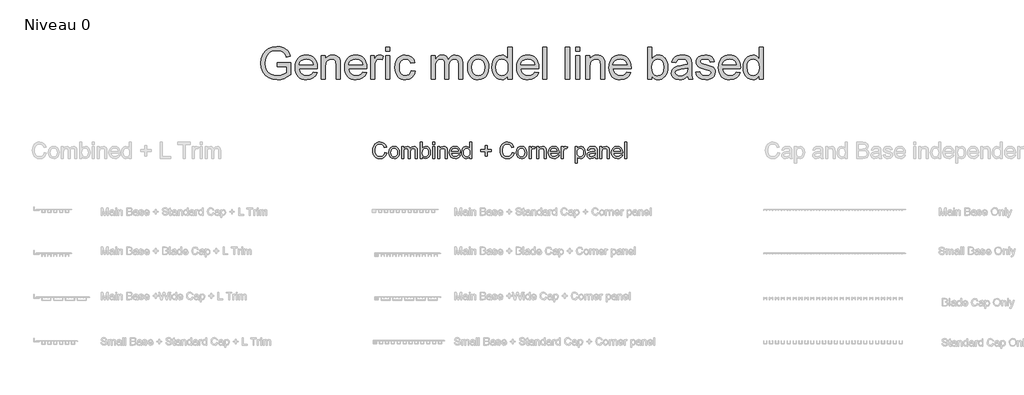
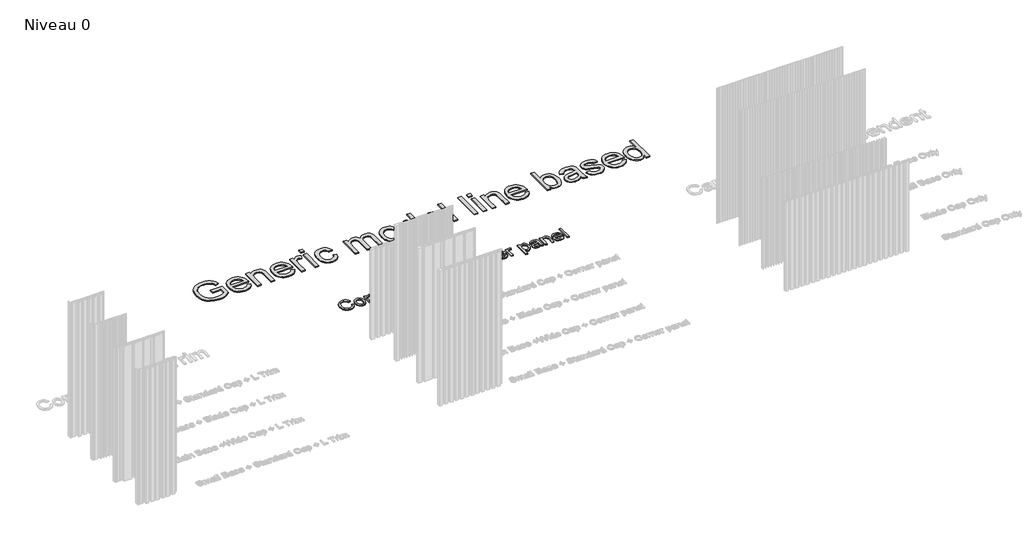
# One storey, part 20 of 25: 2 proxies.
"""IFC4 building model written with IfcOpenShell, lengths in millimetres."""

from ifc_helpers import new_model, si_unit, origin, origin_with_axes, place, context, project, spatial, polyline, outline, extrude, element, save

model = new_model("IFC4")

# Units and contexts
model_context = context("Model", 3, world=origin())
ifc_project = project(units=[si_unit("LENGTHUNIT", "METRE", prefix="MILLI")], contexts=[model_context])

# Site, building, storey
site = spatial("IfcSite", under=ifc_project)
building = spatial("IfcBuilding", under=site)
storey = spatial("IfcBuildingStorey", under=building, Name="Niveau 0", Elevation=0.0)

# Proxies
placement = place(None, origin())
element("IfcBuildingElementProxy", 1, Name="150 mm Arial", ObjectType="150 mm Arial", at=placement, inside=storey, context=model_context, shape_type="SweptSolid", body=[
    extrude(outline(polyline([(3231.9084513, 5099.4454374), (3250.7440095, 5094.5893951), (3242.0527973, 5072.6406355), (3228.4135724, 5056.6055791), (3210.4977192, 5046.7969254), (3188.9766225, 5043.5273741), (3167.1290305, 5046.0013806), (3149.7787959, 5053.4233998), (3136.4798618, 5065.5359145), (3126.7861712, 5082.0814072), (3120.8678696, 5101.5331677), (3118.8951024, 5122.3644857), (3121.125387, 5144.3362379), (3127.8162408, 5163.3097518), (3138.6181759, 5178.6826207), (3153.1817043, 5189.8524377), (3170.453764, 5196.6536561), (3189.3812927, 5198.9207289), (3210.0332682, 5195.98687), (3227.1075913, 5187.1852933), (3240.0708331, 5173.0586246), (3248.3895647, 5154.1494901), (3229.5540065, 5149.6613298), (3223.0241011, 5163.3971238), (3214.1029627, 5172.8195014), (3202.6802268, 5178.2687534), (3188.6455287, 5180.0851708), (3172.4679179, 5178.0710168), (3159.1781809, 5172.0285551), (3149.0936157, 5162.5923819), (3142.5315206, 5150.3970937), (3137.7306605, 5122.4012739), (3139.1516048, 5105.0004555), (3143.4144374, 5089.9540819), (3150.6801068, 5077.8369687), (3161.1095613, 5069.2239315), (3173.6129507, 5064.0781821), (3187.1004243, 5062.3629323), (3202.8227811, 5064.698983), (3215.9239786, 5071.707135), (3225.8154058, 5083.3138119), (3231.9084513, 5099.4454374)])), origin_with_axes(), (0.0, 0.0, 1.0), 10.0),
    extrude(outline(polyline([(3269.5795676, 5101.211271), (3273.6538607, 5127.8919127), (3285.87674, 5146.6446974), (3300.9782959, 5155.8325502), (3319.059696, 5158.8951678), (3338.8471488, 5155.1657641), (3354.652279, 5143.9775529), (3365.0127557, 5126.2134511), (3368.4662479, 5102.7563754), (3366.9395376, 5083.7276792), (3362.3594068, 5069.2423256), (3354.8592126, 5058.3944053), (3344.5723123, 5050.2780088), (3332.3540316, 5045.2150328), (3319.059696, 5043.5273741), (3299.0331199, 5047.2429823), (3283.2463837, 5058.3898068), (3272.9962717, 5076.5263891), (3269.5795676, 5101.211271)]), holes=[polyline([(3288.4151258, 5101.2480592), (3290.5948266, 5084.2013272), (3297.1339291, 5072.0566229), (3306.9747724, 5064.7863549), (3319.059696, 5062.3629323), (3331.0894372, 5064.8001505), (3340.9118865, 5072.1118052), (3347.4509889, 5084.4174579), (3349.6306898, 5101.8366704), (3347.4371934, 5118.3867616), (3340.8567042, 5130.3659191), (3331.0204593, 5137.636187), (3319.059696, 5140.0596097), (3306.9747724, 5137.6453841), (3297.1339291, 5130.4027073), (3290.5948266, 5118.2855941), (3288.4151258, 5101.2480592)])]), origin_with_axes(), (0.0, 0.0, 1.0), 10.0),
    extrude(outline(polyline([(3389.6562508, 5045.8818189), (3389.6562508, 5156.5407231), (3408.491809, 5156.5407231), (3408.491809, 5138.3305643), (3421.4412552, 5153.2481792), (3439.8721432, 5158.8951678), (3450.347583, 5157.4558295), (3458.7444895, 5153.1378146), (3469.1187618, 5137.0061891), (3483.8156475, 5153.4229232), (3502.3752942, 5158.8951678), (3516.5341525, 5156.618898), (3527.0049937, 5149.7900885), (3533.4751183, 5138.2247982), (3535.6318265, 5121.7390863), (3535.6318265, 5045.8818189), (3516.7962684, 5045.8818189), (3516.7962684, 5113.6456824), (3515.0488289, 5129.3726377), (3508.7212586, 5137.1165537), (3497.9607102, 5140.0596097), (3487.7565834, 5138.1742145), (3479.4378518, 5132.5180288), (3473.9058263, 5122.7047766), (3472.0618178, 5108.3481817), (3472.0618178, 5045.8818189), (3453.2262596, 5045.8818189), (3453.2262596, 5115.7426098), (3448.866858, 5133.9895568), (3443.1141033, 5138.5420965), (3434.5746425, 5140.0596097), (3420.6319148, 5136.0129077), (3411.3612886, 5124.1671075), (3408.491809, 5101.6895176), (3408.491809, 5045.8818189), (3389.6562508, 5045.8818189)])), origin_with_axes(), (0.0, 0.0, 1.0), 10.0),
    extrude(outline(polyline([(3582.7207219, 5045.8818189), (3563.8851638, 5045.8818189), (3563.8851638, 5196.5662841), (3582.7207219, 5196.5662841), (3582.7207219, 5140.6850091), (3595.9092914, 5154.3426281), (3612.2984343, 5158.8951678), (3631.1707807, 5154.7932836), (3645.8124841, 5143.260183), (3654.8071989, 5125.3259358), (3658.0629545, 5102.86674), (3654.6922357, 5077.7220056), (3644.5800794, 5059.0152061), (3629.7406394, 5047.3993321), (3612.1880697, 5043.5273741), (3595.4402419, 5048.5213722), (3582.7207219, 5063.5033665), (3582.7207219, 5045.8818189)]), holes=[polyline([(3582.7207219, 5101.9838232), (3584.0083089, 5086.275262), (3587.8710698, 5075.6434723), (3597.7395044, 5065.6830673), (3610.569389, 5062.3629323), (3621.4403019, 5064.8093476), (3630.7293223, 5072.1485934), (3637.1028779, 5084.3346845), (3639.2273964, 5101.3216356), (3637.1902498, 5118.5569071), (3631.0788102, 5130.6050424), (3622.0794969, 5137.6959679), (3611.3787293, 5140.0596097), (3600.5078164, 5137.6131944), (3591.218796, 5130.2739486), (3584.8452404, 5118.3085867), (3582.7207219, 5101.9838232)])]), origin_with_axes(), (0.0, 0.0, 1.0), 10.0),
    extrude(outline(polyline([(3679.2529574, 5045.8818189), (3679.2529574, 5156.5407231), (3698.0885156, 5156.5407231), (3698.0885156, 5045.8818189), (3679.2529574, 5045.8818189)])), origin_with_axes(), (0.0, 0.0, 1.0), 10.0),
    extrude(outline(polyline([(3679.2529574, 5177.730726), (3679.2529574, 5196.5662841), (3698.0885156, 5196.5662841), (3698.0885156, 5177.730726), (3679.2529574, 5177.730726)])), origin_with_axes(), (0.0, 0.0, 1.0), 10.0),
    extrude(outline(polyline([(3726.3418528, 5045.8818189), (3726.3418528, 5156.5407231), (3745.177411, 5156.5407231), (3745.177411, 5141.0896793), (3759.5799911, 5154.4437957), (3779.2432837, 5158.8951678), (3797.0303782, 5155.3083184), (3809.170484, 5145.8905393), (3814.8174727, 5132.0397822), (3815.8107541, 5113.8296234), (3815.8107541, 5045.8818189), (3796.9751959, 5045.8818189), (3796.9751959, 5111.2912377), (3794.8046921, 5127.956292), (3787.1343525, 5136.7670658), (3774.2033004, 5140.0596097), (3763.1714391, 5138.2110027), (3753.7674556, 5132.6651816), (3747.3249221, 5121.9506185), (3745.177411, 5104.5957853), (3745.177411, 5045.8818189), (3726.3418528, 5045.8818189)])), origin_with_axes(), (0.0, 0.0, 1.0), 10.0),
    extrude(outline(polyline([(3919.1855947, 5078.8440457), (3937.6532709, 5076.4896009), (3930.9992053, 5062.5744644), (3920.3812112, 5052.172601), (3906.0384119, 5045.6886809), (3888.2099307, 5043.5273741), (3866.1094198, 5047.2567779), (3849.1040746, 5058.4449891), (3838.2607528, 5076.3654407), (3834.6463122, 5100.291566), (3838.297541, 5125.0224331), (3849.2512274, 5143.5177004), (3866.0266464, 5155.050801), (3887.1430729, 5158.8951678), (3907.6019104, 5155.059998), (3923.9496665, 5143.5544886), (3934.6688282, 5125.0960095), (3938.2418821, 5100.4019306), (3938.1315175, 5095.3251591), (3853.4818704, 5095.3251591), (3856.7422245, 5081.2260816), (3864.3159951, 5070.8610064), (3875.2466889, 5064.4874508), (3888.5778127, 5062.3629323), (3907.0454889, 5066.2992696), (3919.1855947, 5078.8440457)]), holes=[polyline([(3853.4818704, 5114.1607172), (3919.4063239, 5114.1607172), (3916.8587411, 5124.1119252), (3911.864743, 5131.2304418), (3900.8834654, 5137.8523177), (3887.0694965, 5140.0596097), (3874.3729692, 5138.2983746), (3863.8745367, 5133.0146695), (3856.5766776, 5124.7787113), (3853.4818704, 5114.1607172)])]), origin_with_axes(), (0.0, 0.0, 1.0), 10.0),
    extrude(outline(polyline([(4025.3563385, 5045.8818189), (4025.3563385, 5063.6505193), (4012.8943359, 5048.5581604), (3995.6682615, 5043.5273741), (3983.4913675, 5045.34839), (3972.344543, 5050.8114377), (3962.9083698, 5059.5348395), (3955.8634296, 5071.1369179), (3951.4764368, 5085.1486234), (3950.0141059, 5101.1009064), (3955.4035771, 5131.083289), (3962.1358176, 5142.9750745), (3971.5535967, 5151.7214689), (3982.944143, 5157.1017431), (3995.5946851, 5158.8951678), (4012.9587153, 5153.763214), (4025.3563385, 5140.4274917), (4025.3563385, 5196.5662841), (4044.1918967, 5196.5662841), (4044.1918967, 5045.8818189), (4025.3563385, 5045.8818189)]), holes=[polyline([(3968.8496641, 5101.1744828), (3970.9741826, 5084.1369479), (3977.3477381, 5072.0198347), (3986.6091674, 5064.7771579), (3997.3973069, 5062.3629323), (4008.1808479, 5064.6667933), (4017.2077523, 5071.5783763), (4023.319192, 5083.22644), (4025.3563385, 5099.739743), (4023.2824038, 5117.7935519), (4017.0605995, 5130.3107368), (4007.8037688, 5137.6223915), (3996.6247547, 5140.0596097), (3985.7262506, 5137.7189605), (3976.7959151, 5130.6970129), (3970.8362268, 5118.635082), (3968.8496641, 5101.1744828)])]), origin_with_axes(), (0.0, 0.0, 1.0), 10.0),
    extrude(outline(polyline([(4168.9774694, 5069.4262666), (4168.9774694, 5109.4518277), (4128.9519084, 5109.4518277), (4128.9519084, 5128.2873858), (4168.9774694, 5128.2873858), (4168.9774694, 5168.3129469), (4187.8130276, 5168.3129469), (4187.8130276, 5128.2873858), (4227.8385887, 5128.2873858), (4227.8385887, 5109.4518277), (4187.8130276, 5109.4518277), (4187.8130276, 5069.4262666), (4168.9774694, 5069.4262666)])), origin_with_axes(), (0.0, 0.0, 1.0), 10.0),
    extrude(outline(polyline([(4420.9030597, 5099.4454374), (4439.7386179, 5094.5893951), (4431.0474057, 5072.6406355), (4417.4081808, 5056.6055791), (4399.4923276, 5046.7969254), (4377.9712309, 5043.5273741), (4356.1236389, 5046.0013806), (4338.7734043, 5053.4233998), (4325.4744702, 5065.5359145), (4315.7807796, 5082.0814072), (4309.862478, 5101.5331677), (4307.8897108, 5122.3644857), (4310.1199954, 5144.3362379), (4316.8108492, 5163.3097518), (4327.6127843, 5178.6826207), (4342.1763128, 5189.8524377), (4359.4483724, 5196.6536561), (4378.3759011, 5198.9207289), (4399.0278766, 5195.98687), (4416.1021997, 5187.1852933), (4429.0654415, 5173.0586246), (4437.3841731, 5154.1494901), (4418.548615, 5149.6613298), (4412.0187095, 5163.3971238), (4403.0975712, 5172.8195014), (4391.6748352, 5178.2687534), (4377.6401371, 5180.0851708), (4361.4625264, 5178.0710168), (4348.1727893, 5172.0285551), (4338.0882241, 5162.5923819), (4331.526129, 5150.3970937), (4326.725269, 5122.4012739), (4328.1462132, 5105.0004555), (4332.4090458, 5089.9540819), (4339.6747152, 5077.8369687), (4350.1041698, 5069.2239315), (4362.6075591, 5064.0781821), (4376.0950327, 5062.3629323), (4391.8173895, 5064.698983), (4404.918587, 5071.707135), (4414.8100142, 5083.3138119), (4420.9030597, 5099.4454374)])), origin_with_axes(), (0.0, 0.0, 1.0), 10.0),
    extrude(outline(polyline([(4458.574176, 5101.211271), (4462.6484691, 5127.8919127), (4474.8713484, 5146.6446974), (4489.9729043, 5155.8325502), (4508.0543044, 5158.8951678), (4527.8417572, 5155.1657641), (4543.6468874, 5143.9775529), (4554.0073641, 5126.2134511), (4557.4608563, 5102.7563754), (4555.9341461, 5083.7276792), (4551.3540152, 5069.2423256), (4543.853821, 5058.3944053), (4533.5669207, 5050.2780088), (4521.34864, 5045.2150328), (4508.0543044, 5043.5273741), (4488.0277283, 5047.2429823), (4472.2409922, 5058.3898068), (4461.9908801, 5076.5263891), (4458.574176, 5101.211271)]), holes=[polyline([(4477.4097342, 5101.2480592), (4479.589435, 5084.2013272), (4486.1285375, 5072.0566229), (4495.9693808, 5064.7863549), (4508.0543044, 5062.3629323), (4520.0840456, 5064.8001505), (4529.9064949, 5072.1118052), (4536.4455974, 5084.4174579), (4538.6252982, 5101.8366704), (4536.4318018, 5118.3867616), (4529.8513126, 5130.3659191), (4520.0150678, 5137.636187), (4508.0543044, 5140.0596097), (4495.9693808, 5137.6453841), (4486.1285375, 5130.4027073), (4479.589435, 5118.2855941), (4477.4097342, 5101.2480592)])]), origin_with_axes(), (0.0, 0.0, 1.0), 10.0),
    extrude(outline(polyline([(4578.6508593, 5045.8818189), (4578.6508593, 5156.5407231), (4595.1319726, 5156.5407231), (4595.1319726, 5140.1699743), (4606.8306201, 5155.2531361), (4618.6028439, 5158.8951678), (4637.5119785, 5153.0826323), (4631.2211964, 5136.1968487), (4617.9774445, 5140.0596097), (4607.3272608, 5136.3440015), (4600.539838, 5126.0433057), (4597.4864174, 5104.0439624), (4597.4864174, 5045.8818189), (4578.6508593, 5045.8818189)])), origin_with_axes(), (0.0, 0.0, 1.0), 10.0),
    extrude(outline(polyline([(4649.2842023, 5045.8818189), (4649.2842023, 5156.5407231), (4668.1197605, 5156.5407231), (4668.1197605, 5141.0896793), (4682.5223406, 5154.4437957), (4702.1856332, 5158.8951678), (4719.9727277, 5155.3083184), (4732.1128335, 5145.8905393), (4737.7598222, 5132.0397822), (4738.7531036, 5113.8296234), (4738.7531036, 5045.8818189), (4719.9175454, 5045.8818189), (4719.9175454, 5111.2912377), (4717.7470416, 5127.956292), (4710.076702, 5136.7670658), (4697.1456499, 5140.0596097), (4686.1137886, 5138.2110027), (4676.7098051, 5132.6651816), (4670.2672716, 5121.9506185), (4668.1197605, 5104.5957853), (4668.1197605, 5045.8818189), (4649.2842023, 5045.8818189)])), origin_with_axes(), (0.0, 0.0, 1.0), 10.0),
    extrude(outline(polyline([(4842.1279442, 5078.8440457), (4860.5956204, 5076.4896009), (4853.9415548, 5062.5744644), (4843.3235607, 5052.172601), (4828.9807614, 5045.6886809), (4811.1522802, 5043.5273741), (4789.0517693, 5047.2567779), (4772.0464241, 5058.4449891), (4761.2031023, 5076.3654407), (4757.5886617, 5100.291566), (4761.2398905, 5125.0224331), (4772.1935769, 5143.5177004), (4788.9689959, 5155.050801), (4810.0854224, 5158.8951678), (4830.5442599, 5155.059998), (4846.892016, 5143.5544886), (4857.6111777, 5125.0960095), (4861.1842316, 5100.4019306), (4861.073867, 5095.3251591), (4776.4242199, 5095.3251591), (4779.684574, 5081.2260816), (4787.2583446, 5070.8610064), (4798.1890384, 5064.4874508), (4811.5201622, 5062.3629323), (4829.9878384, 5066.2992696), (4842.1279442, 5078.8440457)]), holes=[polyline([(4776.4242199, 5114.1607172), (4842.3486734, 5114.1607172), (4839.8010906, 5124.1119252), (4834.8070925, 5131.2304418), (4823.8258149, 5137.8523177), (4810.011846, 5140.0596097), (4797.3153187, 5138.2983746), (4786.8168862, 5133.0146695), (4779.5190271, 5124.7787113), (4776.4242199, 5114.1607172)])]), origin_with_axes(), (0.0, 0.0, 1.0), 10.0),
    extrude(outline(polyline([(4880.0197897, 5045.8818189), (4880.0197897, 5156.5407231), (4896.5009031, 5156.5407231), (4896.5009031, 5140.1699743), (4908.1995505, 5155.2531361), (4919.9717744, 5158.8951678), (4938.8809089, 5153.0826323), (4932.5901268, 5136.1968487), (4919.346375, 5140.0596097), (4908.6961912, 5136.3440015), (4901.9087684, 5126.0433057), (4898.8553479, 5104.0439624), (4898.8553479, 5045.8818189), (4880.0197897, 5045.8818189)])), origin_with_axes(), (0.0, 0.0, 1.0), 10.0),
    extrude(outline(polyline([(5009.514252, 5003.5018131), (5009.514252, 5156.5407231), (5028.3498102, 5156.5407231), (5028.3498102, 5138.0730469), (5041.3728328, 5153.6896376), (5058.9575922, 5158.8951678), (5071.6955062, 5157.074152), (5082.8331336, 5151.6111043), (5091.9014248, 5142.8371187), (5098.4313302, 5131.083289), (5103.6920428, 5102.0573996), (5102.2067192, 5085.9487667), (5097.7507486, 5071.5415881), (5090.466685, 5059.5670291), (5080.497083, 5050.7562554), (5068.8858075, 5045.3345944), (5056.6767238, 5043.5273741), (5040.2875809, 5048.3650224), (5028.3498102, 5060.5970987), (5028.3498102, 5003.5018131), (5009.514252, 5003.5018131)]), holes=[polyline([(5028.3498102, 5100.3283542), (5030.3869567, 5083.4425706), (5036.4983964, 5071.6335586), (5045.5161038, 5064.6805889), (5056.2720536, 5062.3629323), (5067.2027474, 5064.7633623), (5076.450381, 5071.9646524), (5082.7549587, 5084.2059258), (5084.8564846, 5101.7263058), (5082.8055425, 5118.5201189), (5076.6527161, 5130.4946778), (5067.6488043, 5137.6683767), (5057.0446058, 5140.0596097), (5046.3990206, 5137.5166254), (5037.0502193, 5129.8876725), (5030.5249125, 5117.4118744), (5028.3498102, 5100.3283542)])]), origin_with_axes(), (0.0, 0.0, 1.0), 10.0),
    extrude(outline(polyline([(5195.5153888, 5060.0084875), (5177.2500477, 5047.2429823), (5157.0717203, 5043.5273741), (5141.3309694, 5045.7622573), (5129.7196939, 5052.4669066), (5122.5597906, 5062.6480408), (5120.1731562, 5075.3123785), (5123.7783997, 5090.2115993), (5133.2513611, 5101.02733), (5146.4399306, 5107.2077475), (5162.737103, 5110.0404389), (5195.4050242, 5116.515162), (5195.5153888, 5120.7090167), (5194.2186047, 5129.1151203), (5190.3282526, 5134.6149562), (5181.6278435, 5138.6984463), (5169.5061317, 5140.0596097), (5150.4498444, 5136.435972), (5141.3631591, 5123.5784963), (5122.5276009, 5125.9329411), (5130.6761871, 5144.3270408), (5147.0837241, 5155.1059833), (5171.9341529, 5158.8951678), (5194.7612307, 5155.5474417), (5207.6554946, 5147.1413381), (5213.4312419, 5134.3574388), (5214.3509469, 5117.8763254), (5214.3509469, 5094.4422423), (5215.3074401, 5061.7191388), (5219.0598365, 5045.8818189), (5200.2242783, 5045.8818189), (5195.5153888, 5060.0084875)]), holes=[polyline([(5195.5153888, 5097.6796038), (5165.128336, 5091.9038565), (5148.9231341, 5088.850436), (5141.5838883, 5083.884029), (5139.0087143, 5076.6367537), (5144.6189147, 5066.4464224), (5161.081634, 5062.3629323), (5180.1379214, 5066.8694867), (5192.42518, 5077.7771879), (5195.4050242, 5092.3453149), (5195.5153888, 5097.6796038)])]), origin_with_axes(), (0.0, 0.0, 1.0), 10.0),
    extrude(outline(polyline([(5240.2498394, 5045.8818189), (5240.2498394, 5156.5407231), (5259.0853975, 5156.5407231), (5259.0853975, 5141.0896793), (5273.4879776, 5154.4437957), (5293.1512703, 5158.8951678), (5310.9383648, 5155.3083184), (5323.0784706, 5145.8905393), (5328.7254592, 5132.0397822), (5329.7187406, 5113.8296234), (5329.7187406, 5045.8818189), (5310.8831825, 5045.8818189), (5310.8831825, 5111.2912377), (5308.7126787, 5127.956292), (5301.0423391, 5136.7670658), (5288.111287, 5140.0596097), (5277.0794256, 5138.2110027), (5267.6754421, 5132.6651816), (5261.2329087, 5121.9506185), (5259.0853975, 5104.5957853), (5259.0853975, 5045.8818189), (5240.2498394, 5045.8818189)])), origin_with_axes(), (0.0, 0.0, 1.0), 10.0),
    extrude(outline(polyline([(5433.0935813, 5078.8440457), (5451.5612574, 5076.4896009), (5444.9071918, 5062.5744644), (5434.2891977, 5052.172601), (5419.9463985, 5045.6886809), (5402.1179173, 5043.5273741), (5380.0174064, 5047.2567779), (5363.0120612, 5058.4449891), (5352.1687394, 5076.3654407), (5348.5542988, 5100.291566), (5352.2055276, 5125.0224331), (5363.159214, 5143.5177004), (5379.934633, 5155.050801), (5401.0510595, 5158.8951678), (5421.5098969, 5155.059998), (5437.8576531, 5143.5544886), (5448.5768147, 5125.0960095), (5452.1498686, 5100.4019306), (5452.039504, 5095.3251591), (5367.3898569, 5095.3251591), (5370.6502111, 5081.2260816), (5378.2239817, 5070.8610064), (5389.1546755, 5064.4874508), (5402.4857993, 5062.3629323), (5420.9534754, 5066.2992696), (5433.0935813, 5078.8440457)]), holes=[polyline([(5367.3898569, 5114.1607172), (5433.3143105, 5114.1607172), (5430.7667276, 5124.1119252), (5425.7727296, 5131.2304418), (5414.791452, 5137.8523177), (5400.9774831, 5140.0596097), (5388.2809557, 5138.2983746), (5377.7825233, 5133.0146695), (5370.4846642, 5124.7787113), (5367.3898569, 5114.1607172)])]), origin_with_axes(), (0.0, 0.0, 1.0), 10.0),
    extrude(outline(polyline([(5470.9854268, 5045.8818189), (5470.9854268, 5196.5662841), (5489.8209849, 5196.5662841), (5489.8209849, 5045.8818189), (5470.9854268, 5045.8818189)])), origin_with_axes(), (0.0, 0.0, 1.0), 10.0),
])
element("IfcBuildingElementProxy", 2, Name="300mm Arial", ObjectType="300mm Arial", at=placement, inside=storey, context=model_context, shape_type="SweptSolid", body=[
    extrude(outline(polyline([(2230.1605365, 5903.9454497), (2230.1605365, 5941.616566), (2352.5916645, 5941.616566), (2352.5916645, 5828.9710991), (2322.8392081, 5808.2777369), (2292.1486527, 5793.4336983), (2260.5935745, 5784.4941659), (2228.2475501, 5781.5143217), (2185.9871059, 5786.2508024), (2147.7917578, 5800.4602445), (2116.0619357, 5823.6460072), (2093.1980697, 5855.3114499), (2079.3749037, 5893.2952659), (2074.7671817, 5935.4361485), (2079.3565096, 5977.8805337), (2093.1244933, 6017.3634688), (2115.5009156, 6050.4820454), (2145.9155596, 6073.8333551), (2182.9612765, 6087.6841122), (2225.2309178, 6092.3010312), (2256.261764, 6089.6246897), (2284.1656134, 6081.5956652), (2307.6640758, 6068.7933717), (2325.4787614, 6051.7972236), (2338.6581339, 6029.7886832), (2348.2506569, 6001.9492132), (2313.5225966, 5992.1635521), (2305.7694835, 6012.0199828), (2296.3425074, 6027.0019771), (2283.8713078, 6038.2959543), (2266.9855242, 6047.088334), (2246.853182, 6052.7445197), (2224.6423066, 6054.6299149), (2198.6422466, 6052.5973669), (2176.412977, 6046.4997228), (2158.0372713, 6037.1003379), (2143.597903, 6025.1625671), (2124.2105219, 5996.1366777), (2115.381354, 5967.6993995), (2112.438298, 5936.9812529), (2115.9791622, 5900.9564085), (2126.6017548, 5871.3143167), (2143.9841791, 5848.2665097), (2167.8045383, 5832.0245196), (2195.6807965, 5822.3952084), (2225.2309178, 5819.185438), (2251.3229483, 5821.6042621), (2276.7711853, 5828.8607345), (2298.8716961, 5838.8579277), (2314.9205482, 5849.4989144), (2314.9205482, 5903.9454497), (2230.1605365, 5903.9454497)])), origin_with_axes(), (0.0, 0.0, 1.0), 10.0),
    extrude(outline(polyline([(2564.0502353, 5852.1476648), (2600.9855876, 5847.4387752), (2587.6774564, 5819.6085023), (2566.4414683, 5798.8047755), (2537.7558697, 5785.8369351), (2502.0989073, 5781.5143217), (2478.7246051, 5783.3790236), (2457.8978856, 5788.9731292), (2439.618749, 5798.2966385), (2423.8871951, 5811.3495515), (2411.236653, 5827.7685848), (2402.2005515, 5847.1904549), (2396.7788906, 5869.6151618), (2394.9716703, 5895.0427054), (2396.7972847, 5921.3324725), (2402.2741279, 5944.5044397), (2411.4021999, 5964.5586069), (2424.1815007, 5981.4949743), (2439.8716678, 5994.9502583), (2457.7323387, 6004.5611754), (2477.7635133, 6010.3277257), (2499.9651917, 6012.2499091), (2521.4517995, 6010.3323242), (2540.8828667, 6004.5795695), (2558.2583931, 5994.991645), (2573.578379, 5981.5685507), (2586.0840676, 5964.6689715), (2595.0167023, 5944.6515925), (2600.3762831, 5921.5164135), (2602.16281, 5895.2634346), (2601.9420808, 5885.1098915), (2432.6427866, 5885.1098915), (2439.163495, 5856.9117366), (2454.3110361, 5836.1815862), (2476.1724237, 5823.4344751), (2502.8346713, 5819.185438), (2522.88424, 5821.1536067), (2539.7700236, 5827.0581127), (2553.492022, 5837.2668381), (2564.0502353, 5852.1476648)]), holes=[polyline([(2432.6427866, 5922.7810078), (2564.4916937, 5922.7810078), (2559.3965281, 5942.6834238), (2549.4085319, 5956.920457), (2527.4459768, 5970.1642088), (2499.818039, 5974.5787928), (2474.4249842, 5971.0563227), (2453.4281194, 5960.4889124), (2438.8324012, 5944.016996), (2432.6427866, 5922.7810078)])]), origin_with_axes(), (0.0, 0.0, 1.0), 10.0),
    extrude(outline(polyline([(2639.8339263, 5786.2232112), (2639.8339263, 6007.5410195), (2677.5050426, 6007.5410195), (2677.5050426, 5976.6389319), (2690.5924446, 5992.2187344), (2706.3102028, 6003.3471648), (2724.6583174, 6010.024223), (2745.6367881, 6012.2499091), (2764.2056318, 6010.4564843), (2781.2109771, 6005.0762102), (2795.392828, 5996.7804712), (2805.4911887, 5986.240652), (2816.785166, 5958.5391378), (2818.7717288, 5922.1188203), (2818.7717288, 5786.2232112), (2781.1006125, 5786.2232112), (2781.1006125, 5917.0420487), (2776.7596049, 5950.3721575), (2770.7539313, 5960.2957743), (2761.4189257, 5967.9937051), (2749.4535638, 5972.9325208), (2735.5568215, 5974.5787928), (2713.4930988, 5970.8815787), (2694.6851318, 5959.7899366), (2687.1688428, 5950.735441), (2681.8000649, 5938.3608103), (2677.5050426, 5903.6511441), (2677.5050426, 5786.2232112), (2639.8339263, 5786.2232112)])), origin_with_axes(), (0.0, 0.0, 1.0), 10.0),
    extrude(outline(polyline([(3025.5214101, 5852.1476648), (3062.4567624, 5847.4387752), (3049.1486312, 5819.6085023), (3027.912643, 5798.8047755), (2999.2270445, 5785.8369351), (2963.5700821, 5781.5143217), (2940.1957798, 5783.3790236), (2919.3690604, 5788.9731292), (2901.0899237, 5798.2966385), (2885.3583699, 5811.3495515), (2872.7078278, 5827.7685848), (2863.6717263, 5847.1904549), (2858.2500654, 5869.6151618), (2856.4428451, 5895.0427054), (2858.2684595, 5921.3324725), (2863.7453027, 5944.5044397), (2872.8733747, 5964.5586069), (2885.6526755, 5981.4949743), (2901.3428426, 5994.9502583), (2919.2035135, 6004.5611754), (2939.2346881, 6010.3277257), (2961.4363665, 6012.2499091), (2982.9229743, 6010.3323242), (3002.3540414, 6004.5795695), (3019.7295679, 5994.991645), (3035.0495537, 5981.5685507), (3047.5552423, 5964.6689715), (3056.487877, 5944.6515925), (3061.8474578, 5921.5164135), (3063.6339848, 5895.2634346), (3063.4132556, 5885.1098915), (2894.1139614, 5885.1098915), (2900.6346697, 5856.9117366), (2915.7822109, 5836.1815862), (2937.6435985, 5823.4344751), (2964.3058461, 5819.185438), (2984.3554148, 5821.1536067), (3001.2411984, 5827.0581127), (3014.9631968, 5837.2668381), (3025.5214101, 5852.1476648)]), holes=[polyline([(2894.1139614, 5922.7810078), (3025.9628685, 5922.7810078), (3020.8677028, 5942.6834238), (3010.8797067, 5956.920457), (2988.9171515, 5970.1642088), (2961.2892137, 5974.5787928), (2935.896159, 5971.0563227), (2914.8992941, 5960.4889124), (2900.303576, 5944.016996), (2894.1139614, 5922.7810078)])]), origin_with_axes(), (0.0, 0.0, 1.0), 10.0),
    extrude(outline(polyline([(3101.3051011, 5786.2232112), (3101.3051011, 6007.5410195), (3134.2673278, 6007.5410195), (3134.2673278, 5974.799522), (3146.4442219, 5993.7822329), (3157.6646227, 6004.9658456), (3168.9218118, 6010.4288932), (3181.2090704, 6012.2499091), (3199.9710522, 6009.3436413), (3219.0273395, 6000.624838), (3206.4457753, 5966.8532709), (3193.2020235, 5972.6474123), (3179.9582716, 5974.5787928), (3168.7102796, 5972.7209887), (3158.6579041, 5967.1475765), (3150.5369091, 5958.2816204), (3145.0830585, 5946.5461847), (3140.5029277, 5925.5033346), (3138.9762174, 5902.5474981), (3138.9762174, 5786.2232112), (3101.3051011, 5786.2232112)])), origin_with_axes(), (0.0, 0.0, 1.0), 10.0),
    extrude(outline(polyline([(3242.5717872, 6049.9210254), (3242.5717872, 6087.5921417), (3280.2429035, 6087.5921417), (3280.2429035, 6049.9210254), (3242.5717872, 6049.9210254)])), origin_with_axes(), (0.0, 0.0, 1.0), 10.0),
    extrude(outline(polyline([(3242.5717872, 5786.2232112), (3242.5717872, 6007.5410195), (3280.2429035, 6007.5410195), (3280.2429035, 5786.2232112), (3242.5717872, 5786.2232112)])), origin_with_axes(), (0.0, 0.0, 1.0), 10.0),
    extrude(outline(polyline([(3478.0162641, 5866.2743334), (3515.6873804, 5861.5654439), (3505.1843495, 5828.0605911), (3485.4474804, 5802.7411128), (3458.3345774, 5786.8210195), (3425.7034444, 5781.5143217), (3404.5755216, 5783.365228), (3385.6318981, 5788.9179469), (3368.8725739, 5798.1724783), (3354.2975491, 5811.1288223), (3342.5000334, 5827.5432571), (3334.0732365, 5847.1720608), (3329.0171583, 5870.0152334), (3327.3317989, 5896.072775), (3330.2104755, 5929.5960218), (3338.8465054, 5958.6495024), (3353.3778442, 5982.1111766), (3373.9424477, 5998.8590045), (3398.5445561, 6008.9021829), (3425.1884096, 6012.2499091), (3457.0193993, 6007.6513841), (3482.4676363, 5993.8558093), (3500.7237803, 5971.5989486), (3510.9784909, 5941.616566), (3473.3073746, 5936.9076765), (3466.4739665, 5953.3428046), (3455.8329798, 5965.1242255), (3441.9730256, 5972.215151), (3425.4827152, 5974.5787928), (3401.1381242, 5969.9250855), (3381.8151224, 5955.9639638), (3369.205967, 5931.9412695), (3365.0029152, 5897.1028446), (3369.1139965, 5861.7953701), (3381.4472404, 5837.6899024), (3400.4207543, 5823.8115541), (3424.4526456, 5819.185438), (3443.9595884, 5822.0733117), (3459.9532582, 5830.7369327), (3471.5875263, 5845.3970302), (3478.0162641, 5866.2743334)])), origin_with_axes(), (0.0, 0.0, 1.0), 10.0),
    extrude(outline(polyline([(3666.3718457, 5786.2232112), (3666.3718457, 6007.5410195), (3704.042962, 6007.5410195), (3704.042962, 5971.120702), (3715.3737274, 5987.8501357), (3729.9418544, 6000.9559318), (3747.2507023, 6009.4264148), (3766.8036303, 6012.2499091), (3787.75451, 6009.3712325), (3804.548323, 6000.7352026), (3817.0930991, 5986.9120367), (3825.2968676, 5968.4719517), (3839.028063, 5987.624808), (3854.690639, 6001.3054197), (3872.2845954, 6009.5137867), (3891.8099323, 6012.2499091), (3920.1276489, 6007.6973694), (3941.0693315, 5994.0397503), (3954.0095806, 5970.9091699), (3958.322997, 5937.9377461), (3958.322997, 5786.2232112), (3920.6518807, 5786.2232112), (3920.6518807, 5921.7509383), (3917.1570018, 5953.2048489), (3912.2457771, 5961.8776669), (3904.5018611, 5968.6926808), (3894.5414561, 5973.1072648), (3882.9807644, 5974.5787928), (3862.5725107, 5970.8080023), (3845.9350475, 5959.495631), (3834.8709965, 5939.8691265), (3831.1829795, 5911.1559368), (3831.1829795, 5786.2232112), (3793.5118632, 5786.2232112), (3793.5118632, 5925.944793), (3791.3321624, 5947.2451605), (3784.7930599, 5962.4386869), (3773.2875505, 5971.5437663), (3756.2086289, 5974.5787928), (3741.6956842, 5972.5554418), (3728.3231736, 5966.4853889), (3717.2867138, 5956.5157868), (3709.7819211, 5942.7937884), (3705.4777017, 5923.7558951), (3704.042962, 5897.8386086), (3704.042962, 5786.2232112), (3666.3718457, 5786.2232112)])), origin_with_axes(), (0.0, 0.0, 1.0), 10.0),
    extrude(outline(polyline([(4005.4118924, 5896.8821154), (4007.449039, 5925.5447213), (4013.5604786, 5950.2433988), (4023.7462113, 5970.9781477), (4038.0062372, 5987.7489682), (4052.362832, 5998.4681298), (4068.209349, 6006.1246739), (4085.545788, 6010.7186003), (4104.3721491, 6012.2499091), (4125.1551826, 6010.3852072), (4143.9470547, 6004.7911016), (4160.7477656, 5995.4675923), (4175.5573152, 5982.4146793), (4187.644538, 5966.0738209), (4196.2782686, 5946.8864756), (4201.4585069, 5924.8526433), (4203.185253, 5899.9723241), (4200.1318325, 5861.9149317), (4190.9715708, 5832.9442246), (4175.9711824, 5811.248384), (4155.3973818, 5795.0155909), (4130.9608203, 5784.889639), (4104.3721491, 5781.5143217), (4083.285613, 5783.3721258), (4064.3189969, 5788.945538), (4047.4723008, 5798.2345584), (4032.7455247, 5811.2391869), (4020.7870605, 5827.7386944), (4012.2453005, 5847.5123516), (4007.1202444, 5870.5601586), (4005.4118924, 5896.8821154)]), holes=[polyline([(4043.0830087, 5896.9556918), (4047.4424104, 5862.8622279), (4060.5206153, 5838.5728192), (4080.202302, 5824.0322833), (4104.3721491, 5819.185438), (4128.4316316, 5824.0598744), (4148.0765301, 5838.6831838), (4161.1547351, 5863.2944892), (4165.5141367, 5898.1329142), (4161.1271439, 5931.2330967), (4147.9661655, 5955.1914116), (4128.2936759, 5969.7319475), (4104.3721491, 5974.5787928), (4080.202302, 5969.7503416), (4060.5206153, 5955.264988), (4047.4424104, 5931.0307616), (4043.0830087, 5896.9556918)])]), origin_with_axes(), (0.0, 0.0, 1.0), 10.0),
    extrude(outline(polyline([(4382.1230555, 5786.2232112), (4382.1230555, 5821.760612), (4370.8520708, 5804.15286), (4357.1990503, 5791.5758943), (4341.1639938, 5784.0297148), (4322.7469015, 5781.5143217), (4298.3931134, 5785.1563535), (4276.0994645, 5796.0824487), (4257.2271181, 5813.5292523), (4243.1372377, 5836.7334092), (4234.3632521, 5864.7568202), (4231.4385902, 5896.6613862), (4234.1333259, 5928.1704791), (4242.2175327, 5956.6261514), (4255.6820137, 5980.4097224), (4274.5175719, 5997.9025113), (4297.2986644, 6008.6630596), (4322.5997487, 6012.2499091), (4341.0306366, 6009.6839322), (4357.327809, 6001.9860014), (4371.1417779, 5990.1861864), (4382.1230555, 5975.3145568), (4382.1230555, 6087.5921417), (4419.7941718, 6087.5921417), (4419.7941718, 5786.2232112), (4382.1230555, 5786.2232112)]), holes=[polyline([(4269.1097066, 5896.808539), (4273.3587436, 5862.7334692), (4286.1058547, 5838.4992428), (4304.6287132, 5824.0138892), (4326.2049922, 5819.185438), (4347.7720742, 5823.79316), (4365.8258831, 5837.616326), (4378.0487624, 5860.9124533), (4382.1230555, 5893.9390594), (4377.975186, 5930.0466773), (4365.5315775, 5955.081047), (4347.0179161, 5969.7043563), (4324.6598878, 5974.5787928), (4302.8628796, 5969.8974944), (4285.0022087, 5955.8535992), (4273.0828321, 5931.7297374), (4269.1097066, 5896.808539)])]), origin_with_axes(), (0.0, 0.0, 1.0), 10.0),
    extrude(outline(polyline([(4631.2527426, 5852.1476648), (4668.1880949, 5847.4387752), (4654.8799637, 5819.6085023), (4633.6439756, 5798.8047755), (4604.958377, 5785.8369351), (4569.3014146, 5781.5143217), (4545.9271124, 5783.3790236), (4525.1003929, 5788.9731292), (4506.8212563, 5798.2966385), (4491.0897024, 5811.3495515), (4478.4391603, 5827.7685848), (4469.4030588, 5847.1904549), (4463.9813979, 5869.6151618), (4462.1741776, 5895.0427054), (4463.999792, 5921.3324725), (4469.4766352, 5944.5044397), (4478.6047072, 5964.5586069), (4491.384008, 5981.4949743), (4507.0741751, 5994.9502583), (4524.934846, 6004.5611754), (4544.9660206, 6010.3277257), (4567.167699, 6012.2499091), (4588.6543068, 6010.3323242), (4608.085374, 6004.5795695), (4625.4609004, 5994.991645), (4640.7808863, 5981.5685507), (4653.2865749, 5964.6689715), (4662.2192096, 5944.6515925), (4667.5787904, 5921.5164135), (4669.3653173, 5895.2634346), (4669.1445881, 5885.1098915), (4499.8452939, 5885.1098915), (4506.3660023, 5856.9117366), (4521.5135434, 5836.1815862), (4543.374931, 5823.4344751), (4570.0371786, 5819.185438), (4590.0867473, 5821.1536067), (4606.9725309, 5827.0581127), (4620.6945293, 5837.2668381), (4631.2527426, 5852.1476648)]), holes=[polyline([(4499.8452939, 5922.7810078), (4631.694201, 5922.7810078), (4626.5990354, 5942.6834238), (4616.6110392, 5956.920457), (4594.6484841, 5970.1642088), (4567.0205462, 5974.5787928), (4541.6274915, 5971.0563227), (4520.6306267, 5960.4889124), (4506.0349085, 5944.016996), (4499.8452939, 5922.7810078)])]), origin_with_axes(), (0.0, 0.0, 1.0), 10.0),
    extrude(outline(polyline([(4707.0364336, 5786.2232112), (4707.0364336, 6087.5921417), (4744.7075499, 6087.5921417), (4744.7075499, 5786.2232112), (4707.0364336, 5786.2232112)])), origin_with_axes(), (0.0, 0.0, 1.0), 10.0),
    extrude(outline(polyline([(4918.9364628, 5786.2232112), (4918.9364628, 6087.5921417), (4956.6075791, 6087.5921417), (4956.6075791, 5786.2232112), (4918.9364628, 5786.2232112)])), origin_with_axes(), (0.0, 0.0, 1.0), 10.0),
    extrude(outline(polyline([(5013.1142536, 6049.9210254), (5013.1142536, 6087.5921417), (5050.7853699, 6087.5921417), (5050.7853699, 6049.9210254), (5013.1142536, 6049.9210254)])), origin_with_axes(), (0.0, 0.0, 1.0), 10.0),
    extrude(outline(polyline([(5013.1142536, 5786.2232112), (5013.1142536, 6007.5410195), (5050.7853699, 6007.5410195), (5050.7853699, 5786.2232112), (5013.1142536, 5786.2232112)])), origin_with_axes(), (0.0, 0.0, 1.0), 10.0),
    extrude(outline(polyline([(5107.2920444, 5786.2232112), (5107.2920444, 6007.5410195), (5144.9631607, 6007.5410195), (5144.9631607, 5976.6389319), (5158.0505626, 5992.2187344), (5173.7683209, 6003.3471648), (5192.1164354, 6010.024223), (5213.0949062, 6012.2499091), (5231.6637499, 6010.4564843), (5248.6690951, 6005.0762102), (5262.850946, 5996.7804712), (5272.9493068, 5986.240652), (5284.243284, 5958.5391378), (5286.2298468, 5922.1188203), (5286.2298468, 5786.2232112), (5248.5587305, 5786.2232112), (5248.5587305, 5917.0420487), (5244.217723, 5950.3721575), (5238.2120494, 5960.2957743), (5228.8770438, 5967.9937051), (5216.9116819, 5972.9325208), (5203.0149395, 5974.5787928), (5180.9512168, 5970.8815787), (5162.1432498, 5959.7899366), (5154.6269608, 5950.735441), (5149.258183, 5938.3608103), (5144.9631607, 5903.6511441), (5144.9631607, 5786.2232112), (5107.2920444, 5786.2232112)])), origin_with_axes(), (0.0, 0.0, 1.0), 10.0),
    extrude(outline(polyline([(5492.9795281, 5852.1476648), (5529.9148804, 5847.4387752), (5516.6067492, 5819.6085023), (5495.3707611, 5798.8047755), (5466.6851625, 5785.8369351), (5431.0282001, 5781.5143217), (5407.6538979, 5783.3790236), (5386.8271784, 5788.9731292), (5368.5480418, 5798.2966385), (5352.8164879, 5811.3495515), (5340.1659458, 5827.7685848), (5331.1298443, 5847.1904549), (5325.7081834, 5869.6151618), (5323.9009631, 5895.0427054), (5325.7265775, 5921.3324725), (5331.2034207, 5944.5044397), (5340.3314927, 5964.5586069), (5353.1107935, 5981.4949743), (5368.8009606, 5994.9502583), (5386.6616315, 6004.5611754), (5406.6928061, 6010.3277257), (5428.8944845, 6012.2499091), (5450.3810923, 6010.3323242), (5469.8121595, 6004.5795695), (5487.1876859, 5994.991645), (5502.5076718, 5981.5685507), (5515.0133604, 5964.6689715), (5523.9459951, 5944.6515925), (5529.3055759, 5921.5164135), (5531.0921028, 5895.2634346), (5530.8713736, 5885.1098915), (5361.5720794, 5885.1098915), (5368.0927878, 5856.9117366), (5383.2403289, 5836.1815862), (5405.1017165, 5823.4344751), (5431.7639641, 5819.185438), (5451.8135328, 5821.1536067), (5468.6993164, 5827.0581127), (5482.4213148, 5837.2668381), (5492.9795281, 5852.1476648)]), holes=[polyline([(5361.5720794, 5922.7810078), (5493.4209865, 5922.7810078), (5488.3258209, 5942.6834238), (5478.3378247, 5956.920457), (5456.3752696, 5970.1642088), (5428.7473318, 5974.5787928), (5403.354277, 5971.0563227), (5382.3574122, 5960.4889124), (5367.761694, 5944.016996), (5361.5720794, 5922.7810078)])]), origin_with_axes(), (0.0, 0.0, 1.0), 10.0),
    extrude(outline(polyline([(5724.1565739, 5786.2232112), (5686.4854576, 5786.2232112), (5686.4854576, 6087.5921417), (5724.1565739, 6087.5921417), (5724.1565739, 5975.8295916), (5736.5450001, 5991.7634805), (5750.5337129, 6003.1448297), (5766.1227125, 6009.9736392), (5783.3119987, 6012.2499091), (5802.7177739, 6010.198967), (5821.0566914, 6004.0461406), (5837.2802874, 5994.1777061), (5850.3400982, 5980.9799395), (5860.5764147, 5964.5815996), (5868.3295278, 5945.111445), (5873.2131613, 5923.3788161), (5874.8410391, 5900.1930533), (5873.1556797, 5873.4388352), (5868.0996015, 5849.9035846), (5859.6728046, 5829.5873014), (5847.8752889, 5812.4899857), (5833.7141313, 5798.9381327), (5818.1964089, 5789.2582377), (5801.3221216, 5783.4503007), (5783.0912695, 5781.5143217), (5765.3363647, 5784.0113207), (5749.5956138, 5791.5023179), (5735.8690169, 5803.9873131), (5724.1565739, 5821.4663064), (5724.1565739, 5786.2232112)]), holes=[polyline([(5724.1565739, 5898.4272198), (5726.7317478, 5867.0100974), (5734.4572697, 5845.7465181), (5743.5853417, 5834.1260455), (5754.1941388, 5825.825708), (5766.2836609, 5820.8455055), (5779.8539079, 5819.185438), (5801.5957339, 5824.0782685), (5820.1737746, 5838.7567602), (5832.9208858, 5863.1289423), (5837.1699228, 5897.1028446), (5833.0956297, 5931.5733875), (5820.8727504, 5955.6696582), (5802.8741238, 5969.8515091), (5781.4725887, 5974.5787928), (5759.7307628, 5969.6859622), (5741.1527221, 5955.0074706), (5728.4056109, 5931.0767468), (5724.1565739, 5898.4272198)])]), origin_with_axes(), (0.0, 0.0, 1.0), 10.0),
    extrude(outline(polyline([(6058.4877311, 5814.4765485), (6040.4891045, 5799.0438988), (6021.957049, 5788.945538), (6002.4685003, 5783.3721258), (5981.6003941, 5781.5143217), (5950.1188924, 5785.9840879), (5926.8963414, 5799.3933867), (5912.5765348, 5819.7556551), (5907.8032659, 5845.0843305), (5909.6058876, 5860.7009212), (5915.013753, 5874.8827721), (5923.3554772, 5887.0228779), (5933.9596757, 5896.5142334), (5960.3368148, 5908.8750684), (5992.9311596, 5914.5404512), (6031.4484044, 5920.5001395), (6058.2670019, 5927.4898974), (6058.4877311, 5935.8776069), (6055.894163, 5952.6898141), (6048.1134588, 5963.6894857), (6030.7126405, 5971.856466), (6006.469217, 5974.5787928), (5984.0284153, 5972.7669739), (5968.3566423, 5967.3315175), (5957.6696703, 5957.2791419), (5950.1832717, 5941.616566), (5912.5121554, 5946.3254555), (5919.0512579, 5966.9268473), (5928.8093278, 5983.1136551), (5942.6968731, 5995.4928842), (5961.6244018, 6004.67154), (5984.7733763, 6010.3553168), (6011.3252593, 6012.2499091), (6036.7918904, 6010.576046), (6056.9794149, 6005.5544568), (6072.2005325, 5998.0036788), (6082.7679428, 5988.7422496), (6089.7760948, 5977.2919225), (6094.3194374, 5963.1744509), (6096.1588474, 5930.2122242), (6096.1588474, 5883.344058), (6098.0718338, 5817.897851), (6105.5766265, 5786.2232112), (6067.9055102, 5786.2232112), (6058.4877311, 5814.4765485)]), holes=[polyline([(6058.4877311, 5889.8187811), (5997.7136255, 5878.2672864), (5965.3032217, 5872.1604453), (5950.6247301, 5862.2276314), (5945.4743822, 5847.7330808), (5948.2794824, 5836.5310741), (5956.694783, 5827.3524183), (5970.5363431, 5821.2271831), (5989.6202216, 5819.185438), (6009.8537313, 5821.4387152), (6027.7327963, 5828.1985469), (6042.2273469, 5838.1589519), (6052.3073136, 5850.0139492), (6056.7770798, 5862.2276314), (6058.2670019, 5879.1502032), (6058.4877311, 5889.8187811)])]), origin_with_axes(), (0.0, 0.0, 1.0), 10.0),
    extrude(outline(polyline([(6133.8299637, 5852.1476648), (6171.50108, 5856.8565543), (6177.4423742, 5840.7433229), (6188.9386866, 5828.8975227), (6206.0635935, 5821.6134592), (6228.8906713, 5819.185438), (6251.4418376, 5821.4111241), (6267.2975516, 5828.0881823), (6276.6785424, 5837.7634788), (6279.8055394, 5848.9838796), (6276.6601483, 5858.5855997), (6267.2239752, 5865.9064514), (6228.4492129, 5876.6486057), (6171.7218092, 5895.0794936), (6157.3652143, 5904.3409228), (6146.9633509, 5916.6005903), (6140.6449777, 5931.0767468), (6138.5388532, 5946.9876431), (6140.2311104, 5961.5833613), (6145.307882, 5975.0570394), (6153.3093154, 5986.8752485), (6163.7755581, 5996.5045597), (6187.724676, 6007.6513841), (6220.1350798, 6012.2499091), (6244.6544148, 6010.4013021), (6265.9731764, 6004.855481), (6283.1164773, 5996.1550718), (6295.1094304, 5984.8427004), (6303.0556815, 5970.0814354), (6308.0588766, 5951.0343451), (6270.3877603, 5946.3254555), (6265.6328855, 5958.1804528), (6256.2243035, 5967.1107883), (6242.0700437, 5972.7117916), (6223.0781357, 5974.5787928), (6201.4466744, 5972.7945651), (6187.0257002, 5967.4418821), (6178.9139022, 5959.7163602), (6176.2099696, 5950.8136159), (6180.6981299, 5939.8507324), (6194.7512221, 5931.5365993), (6227.1984141, 5923.5167718), (6282.491078, 5905.7848597), (6297.0959932, 5897.3051797), (6308.1692412, 5885.6985027), (6315.1498021, 5870.9280406), (6317.4766557, 5852.9570052), (6314.7451319, 5834.3789644), (6306.5505604, 5816.9045696), (6293.2056411, 5801.9041813), (6275.0230735, 5790.7481598), (6253.0605183, 5783.8227812), (6228.3756365, 5781.5143217), (6190.3918205, 5785.9656938), (6162.6719121, 5799.3198103), (6144.1674478, 5821.4295182), (6133.8299637, 5852.1476648)])), origin_with_axes(), (0.0, 0.0, 1.0), 10.0),
    extrude(outline(polyline([(6514.8085579, 5852.1476648), (6551.7439102, 5847.4387752), (6538.4357791, 5819.6085023), (6517.1997909, 5798.8047755), (6488.5141923, 5785.8369351), (6452.8572299, 5781.5143217), (6429.4829277, 5783.3790236), (6408.6562082, 5788.9731292), (6390.3770716, 5798.2966385), (6374.6455177, 5811.3495515), (6361.9949756, 5827.7685848), (6352.9588741, 5847.1904549), (6347.5372132, 5869.6151618), (6345.7299929, 5895.0427054), (6347.5556073, 5921.3324725), (6353.0324505, 5944.5044397), (6362.1605225, 5964.5586069), (6374.9398233, 5981.4949743), (6390.6299904, 5994.9502583), (6408.4906613, 6004.5611754), (6428.5218359, 6010.3277257), (6450.7235144, 6012.2499091), (6472.2101221, 6010.3323242), (6491.6411893, 6004.5795695), (6509.0167158, 5994.991645), (6524.3367016, 5981.5685507), (6536.8423902, 5964.6689715), (6545.7750249, 5944.6515925), (6551.1346057, 5921.5164135), (6552.9211326, 5895.2634346), (6552.7004034, 5885.1098915), (6383.4011092, 5885.1098915), (6389.9218176, 5856.9117366), (6405.0693588, 5836.1815862), (6426.9307463, 5823.4344751), (6453.5929939, 5819.185438), (6473.6425627, 5821.1536067), (6490.5283462, 5827.0581127), (6504.2503447, 5837.2668381), (6514.8085579, 5852.1476648)]), holes=[polyline([(6383.4011092, 5922.7810078), (6515.2500163, 5922.7810078), (6510.1548507, 5942.6834238), (6500.1668545, 5956.920457), (6478.2042994, 5970.1642088), (6450.5763616, 5974.5787928), (6425.1833068, 5971.0563227), (6404.186442, 5960.4889124), (6389.5907238, 5944.016996), (6383.4011092, 5922.7810078)])]), origin_with_axes(), (0.0, 0.0, 1.0), 10.0),
    extrude(outline(polyline([(6727.1500455, 5786.2232112), (6727.1500455, 5821.760612), (6715.8790609, 5804.15286), (6702.2260404, 5791.5758943), (6686.1909839, 5784.0297148), (6667.7738915, 5781.5143217), (6643.4201034, 5785.1563535), (6621.1264545, 5796.0824487), (6602.2541082, 5813.5292523), (6588.1642278, 5836.7334092), (6579.3902422, 5864.7568202), (6576.4655803, 5896.6613862), (6579.1603159, 5928.1704791), (6587.2445228, 5956.6261514), (6600.7090038, 5980.4097224), (6619.5445619, 5997.9025113), (6642.3256545, 6008.6630596), (6667.6267387, 6012.2499091), (6686.0576267, 6009.6839322), (6702.3547991, 6001.9860014), (6716.168768, 5990.1861864), (6727.1500455, 5975.3145568), (6727.1500455, 6087.5921417), (6764.8211618, 6087.5921417), (6764.8211618, 5786.2232112), (6727.1500455, 5786.2232112)]), holes=[polyline([(6614.1366966, 5896.808539), (6618.3857337, 5862.7334692), (6631.1328448, 5838.4992428), (6649.6557032, 5824.0138892), (6671.2319823, 5819.185438), (6692.7990642, 5823.79316), (6710.8528731, 5837.616326), (6723.0757524, 5860.9124533), (6727.1500455, 5893.9390594), (6723.002176, 5930.0466773), (6710.5585675, 5955.081047), (6692.0449061, 5969.7043563), (6669.6868779, 5974.5787928), (6647.8898697, 5969.8974944), (6630.0291988, 5955.8535992), (6618.1098222, 5931.7297374), (6614.1366966, 5896.808539)])]), origin_with_axes(), (0.0, 0.0, 1.0), 10.0),
])

save(model, "model.ifc")
